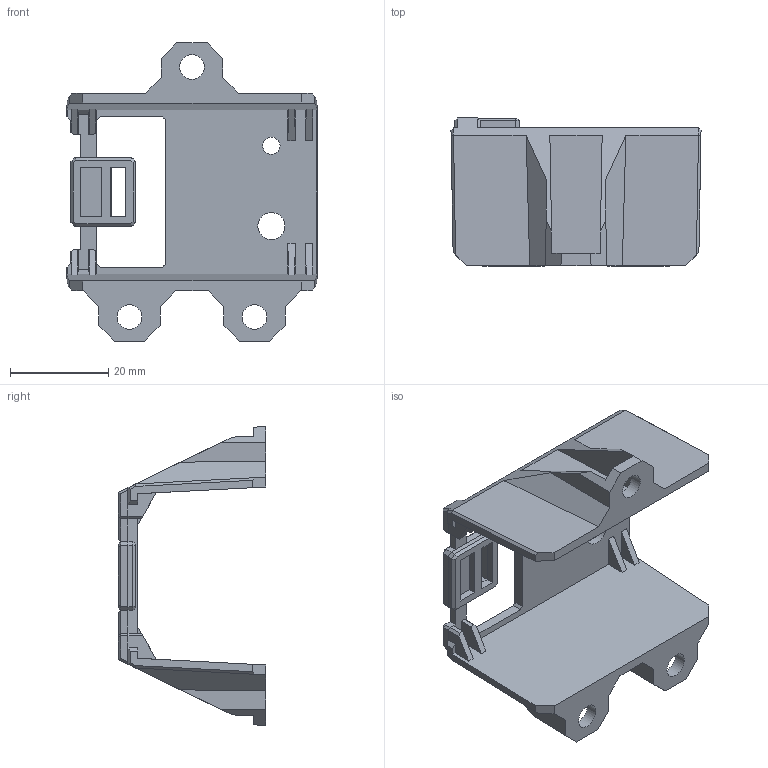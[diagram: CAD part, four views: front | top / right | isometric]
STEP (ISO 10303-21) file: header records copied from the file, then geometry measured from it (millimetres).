
FILE_DESCRIPTION(/* description */ (''),/* implementation_level */ '2;1');
FILE_NAME(/* name */ 'Spark Max Mounting Bracket .step',/* time_stamp */ '2022-12-29T16:04:28-08:00',/* author */ (''),/* organization */ (''),/* preprocessor_version */ 'ST-DEVELOPER v19.2',/* originating_system */ 'Autodesk Translation Framework v11.17.0.187',/* authorisation */ '');
FILE_SCHEMA (('AUTOMOTIVE_DESIGN { 1 0 10303 214 3 1 1 }'));
Length unit declared in the file: inch
Products named in the file (2): Spark Max Mounting Bracket; Component1
Assembly tree (1 placements, depth 2):
  Spark Max Mounting Bracket
    Component1
Bounding box: 50.78 x 30 x 60.58 mm (x, y, z)
Volume: 10831 mm3; surface area: 11259.6 mm2
Topology: 1 solids, 1 shells, 196 faces, 532 edges, 337 vertices
Faces by surface type: plane 189, cylinder 5, cone 2
Full cylindrical faces by diameter (mm): 3.5 x1, 5 x3, 5.5 x1
Entity records: 6074 total; most frequent: CARTESIAN_POINT 1068, ORIENTED_EDGE 1064, DIRECTION 942, EDGE_CURVE 532, LINE 520, VECTOR 520, VERTEX_POINT 337, AXIS2_PLACEMENT_3D 211
